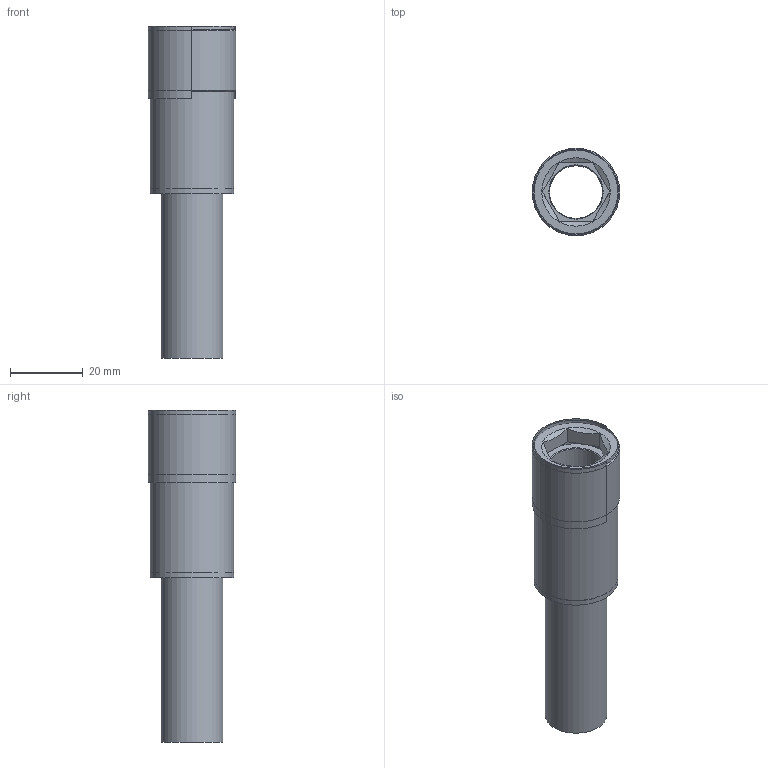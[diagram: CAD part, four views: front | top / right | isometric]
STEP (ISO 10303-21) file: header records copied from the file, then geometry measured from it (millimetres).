
FILE_DESCRIPTION(('STEP AP214'),'1');
FILE_NAME('LC-14SU-CON SEDE.stp','2025-10-28T13:09:49',(' '),(' '),'Spatial InterOp 3D',' ',' ');
FILE_SCHEMA(('AUTOMOTIVE_DESIGN { 1 0 10303 214 1 1 1 1 }'));
Length unit declared in the file: metre
Products named in the file (3): LC-14SU-SEDE; LC-14SU
Bounding box: 24 x 24 x 91.11 mm (x, y, z)
Volume: 11213.3 mm3; surface area: 13046.7 mm2
Topology: 1 solids, 3 shells, 28 faces, 64 edges, 44 vertices
Faces by surface type: plane 13, cylinder 8, cone 6, torus 1
Full cylindrical faces by diameter (mm): 14.5 x1, 17 x1, 18.5 x1, 18.8 x1, 22.9 x1, 23 x1, 24 x1
Entity records: 1240 total; most frequent: CARTESIAN_POINT 208, DIRECTION 124, ORIENTED_EDGE 80, STYLED_ITEM 67, PRESENTATION_STYLE_ASSIGNMENT 67, COLOUR_RGB 67, AXIS2_PLACEMENT_3D 55, EDGE_LOOP 49
